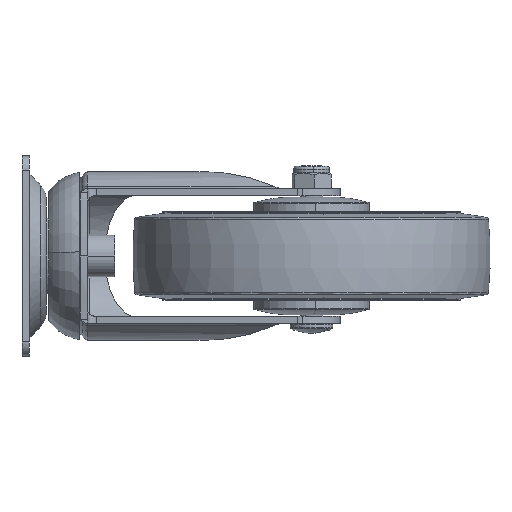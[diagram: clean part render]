
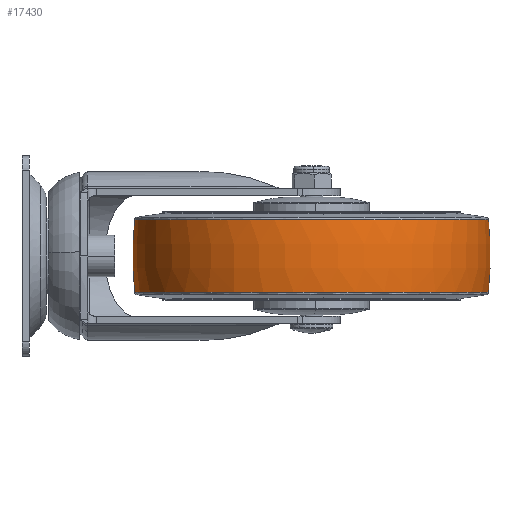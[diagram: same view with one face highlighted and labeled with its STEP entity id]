
A CAD part, left-side view. The second image highlights one B-rep face of the part: STEP entity #17430.
In plain terms, the highlighted toroidal (fillet/blend) face has major radius 58.293 mm and minor radius 120.793 mm.
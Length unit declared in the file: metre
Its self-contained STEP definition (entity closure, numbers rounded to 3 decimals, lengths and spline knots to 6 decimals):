
#6 = DIRECTION ( 'NONE',  ( 0., 0., 1. ) ) ;
#998 = VERTEX_POINT ( 'NONE', #1085 ) ;
#1085 = CARTESIAN_POINT ( 'NONE',  ( -0.043568, -0.03933, -0.012623 ) ) ;
#1993 = DIRECTION ( 'NONE',  ( 0., 0., 1. ) ) ;
#2428 = CARTESIAN_POINT ( 'NONE',  ( -0.094808, -0.074059, 0.012623 ) ) ;
#2638 = CARTESIAN_POINT ( 'NONE',  ( -0.076311, -0.15048, 0.012623 ) ) ;
#3087 = AXIS2_PLACEMENT_3D ( 'NONE', #4885, #33868, #37006 ) ;
#3247 = CARTESIAN_POINT ( 'NONE',  ( -0.065941, -0.156808, 0.012623 ) ) ;
#4885 = CARTESIAN_POINT ( 'NONE',  ( -0.034694, -0.159134, 0. ) ) ;
#5787 = CARTESIAN_POINT ( 'NONE',  ( -0.08848, -0.063689, 0.012623 ) ) ;
#6194 = CARTESIAN_POINT ( 'NONE',  ( -0.082442, -0.145194, 0.012623 ) ) ;
#6241 = ORIENTED_EDGE ( 'NONE', *, *, #33416, .T. ) ;
#7648 = CARTESIAN_POINT ( 'NONE',  ( -0.034432, -0.16267, -0.012623 ) ) ;
#8344 = TOROIDAL_SURFACE ( 'NONE', #37203, -0.058293, 0.120793 ) ;
#8498 = DIRECTION ( 'NONE',  ( -0.011, 1., 0. ) ) ;
#9535 = CARTESIAN_POINT ( 'NONE',  ( -0.09023, -0.13587, 0.012623 ) ) ;
#9586 = ORIENTED_EDGE ( 'NONE', *, *, #25261, .F. ) ;
#9876 = EDGE_CURVE ( 'NONE', #998, #27891, #33635, .T. ) ;
#12081 = CARTESIAN_POINT ( 'NONE',  ( -0.054536, -0.160992, 0.012623 ) ) ;
#12504 = CARTESIAN_POINT ( 'NONE',  ( -0.096048, -0.125206, 0.012623 ) ) ;
#12611 = FACE_OUTER_BOUND ( 'NONE', #25559, .T. ) ;
#12702 = CARTESIAN_POINT ( 'NONE',  ( -0.038468, -0.162969, 0.012623 ) ) ;
#12881 = B_SPLINE_CURVE_WITH_KNOTS ( 'NONE', 3,
 ( #19230, #12702, #31619, #28863, #12081, #32025, #3247, #31208, #2638, #6194, #28468, #9535, #41270, #12504, #41476, #28050, #19024, #21772, #25522, #38320, #21566, #18619, #2428, #15453, #5787, #38526, #28254, #25323, #16066, #34967, #31821, #31417, #25721, #40849 ),
 .UNSPECIFIED., .F., .F.,
 ( 4, 2, 2, 2, 2, 2, 2, 2, 2, 2, 2, 2, 2, 2, 2, 2, 4 ),
 ( 0., 0.0625, 0.125, 0.1875, 0.25, 0.3125, 0.375, 0.4375, 0.5, 0.5625, 0.625, 0.6875, 0.75, 0.8125, 0.875, 0.9375, 1. ),
 .UNSPECIFIED. ) ;
#13022 = CARTESIAN_POINT ( 'NONE',  ( -0.034432, -0.16267, 0.012623 ) ) ;
#14194 = CARTESIAN_POINT ( 'NONE',  ( -0.039, -0.101, -0.012623 ) ) ;
#15453 = CARTESIAN_POINT ( 'NONE',  ( -0.090821, -0.067014, 0.012623 ) ) ;
#16066 = CARTESIAN_POINT ( 'NONE',  ( -0.070435, -0.047594, 0.012623 ) ) ;
#16282 = AXIS2_PLACEMENT_3D ( 'NONE', #27373, #24429, #40170 ) ;
#17430 = ADVANCED_FACE ( 'NONE', ( #12611 ), #8344, .T. ) ;
#18619 = CARTESIAN_POINT ( 'NONE',  ( -0.096455, -0.077777, 0.012623 ) ) ;
#19024 = CARTESIAN_POINT ( 'NONE',  ( -0.100371, -0.109604, 0.012623 ) ) ;
#19230 = CARTESIAN_POINT ( 'NONE',  ( -0.034432, -0.16267, 0.012623 ) ) ;
#21566 = CARTESIAN_POINT ( 'NONE',  ( -0.098992, -0.085464, 0.012623 ) ) ;
#21772 = CARTESIAN_POINT ( 'NONE',  ( -0.100969, -0.101532, 0.012623 ) ) ;
#22270 = AXIS2_PLACEMENT_3D ( 'NONE', #14194, #1993, #8498 ) ;
#23006 = VERTEX_POINT ( 'NONE', #37096 ) ;
#23215 = CIRCLE ( 'NONE', #3087, 0.120793 ) ;
#24429 = DIRECTION ( 'NONE',  ( -0.997, -0.074, 0. ) ) ;
#25261 = EDGE_CURVE ( 'NONE', #998, #23006, #23215, .T. ) ;
#25323 = CARTESIAN_POINT ( 'NONE',  ( -0.07387, -0.04977, 0.012623 ) ) ;
#25522 = CARTESIAN_POINT ( 'NONE',  ( -0.10087, -0.097466, 0.012623 ) ) ;
#25559 = EDGE_LOOP ( 'NONE', ( #9586, #29541, #34008, #6241 ) ) ;
#25721 = CARTESIAN_POINT ( 'NONE',  ( -0.047604, -0.039629, 0.012623 ) ) ;
#27373 = CARTESIAN_POINT ( 'NONE',  ( -0.043306, -0.042866, 0. ) ) ;
#27891 = VERTEX_POINT ( 'NONE', #7648 ) ;
#28050 = CARTESIAN_POINT ( 'NONE',  ( -0.099674, -0.113611, 0.012623 ) ) ;
#28254 = CARTESIAN_POINT ( 'NONE',  ( -0.08025, -0.054752, 0.012623 ) ) ;
#28468 = CARTESIAN_POINT ( 'NONE',  ( -0.085248, -0.14225, 0.012623 ) ) ;
#28863 = CARTESIAN_POINT ( 'NONE',  ( -0.050568, -0.161882, 0.012623 ) ) ;
#29541 = ORIENTED_EDGE ( 'NONE', *, *, #9876, .T. ) ;
#31208 = CARTESIAN_POINT ( 'NONE',  ( -0.072986, -0.152821, 0.012623 ) ) ;
#31417 = CARTESIAN_POINT ( 'NONE',  ( -0.051611, -0.040326, 0.012623 ) ) ;
#31619 = CARTESIAN_POINT ( 'NONE',  ( -0.042534, -0.16287, 0.012623 ) ) ;
#31821 = CARTESIAN_POINT ( 'NONE',  ( -0.059412, -0.042487, 0.012623 ) ) ;
#32025 = CARTESIAN_POINT ( 'NONE',  ( -0.062223, -0.158455, 0.012623 ) ) ;
#32539 = DIRECTION ( 'NONE',  ( 0.074, -0.997, 0. ) ) ;
#33416 = EDGE_CURVE ( 'NONE', #38729, #23006, #12881, .T. ) ;
#33635 = CIRCLE ( 'NONE', #22270, 0.061839 ) ;
#33868 = DIRECTION ( 'NONE',  ( 0.997, 0.074, 0. ) ) ;
#34008 = ORIENTED_EDGE ( 'NONE', *, *, #40345, .T. ) ;
#34967 = CARTESIAN_POINT ( 'NONE',  ( -0.063206, -0.043952, 0.012623 ) ) ;
#37006 = DIRECTION ( 'NONE',  ( -0.074, 0.997, 0. ) ) ;
#37096 = CARTESIAN_POINT ( 'NONE',  ( -0.043568, -0.03933, 0.012623 ) ) ;
#37203 = AXIS2_PLACEMENT_3D ( 'NONE', #39051, #6, #32539 ) ;
#38320 = CARTESIAN_POINT ( 'NONE',  ( -0.099882, -0.089432, 0.012623 ) ) ;
#38526 = CARTESIAN_POINT ( 'NONE',  ( -0.083194, -0.057558, 0.012623 ) ) ;
#38729 = VERTEX_POINT ( 'NONE', #13022 ) ;
#39051 = CARTESIAN_POINT ( 'NONE',  ( -0.039, -0.101, 0. ) ) ;
#40170 = DIRECTION ( 'NONE',  ( 0.074, -0.997, 0. ) ) ;
#40345 = EDGE_CURVE ( 'NONE', #27891, #38729, #40433, .T. ) ;
#40433 = CIRCLE ( 'NONE', #16282, 0.120793 ) ;
#40849 = CARTESIAN_POINT ( 'NONE',  ( -0.043568, -0.03933, 0.012623 ) ) ;
#41270 = CARTESIAN_POINT ( 'NONE',  ( -0.092406, -0.132435, 0.012623 ) ) ;
#41476 = CARTESIAN_POINT ( 'NONE',  ( -0.097513, -0.121412, 0.012623 ) ) ;
